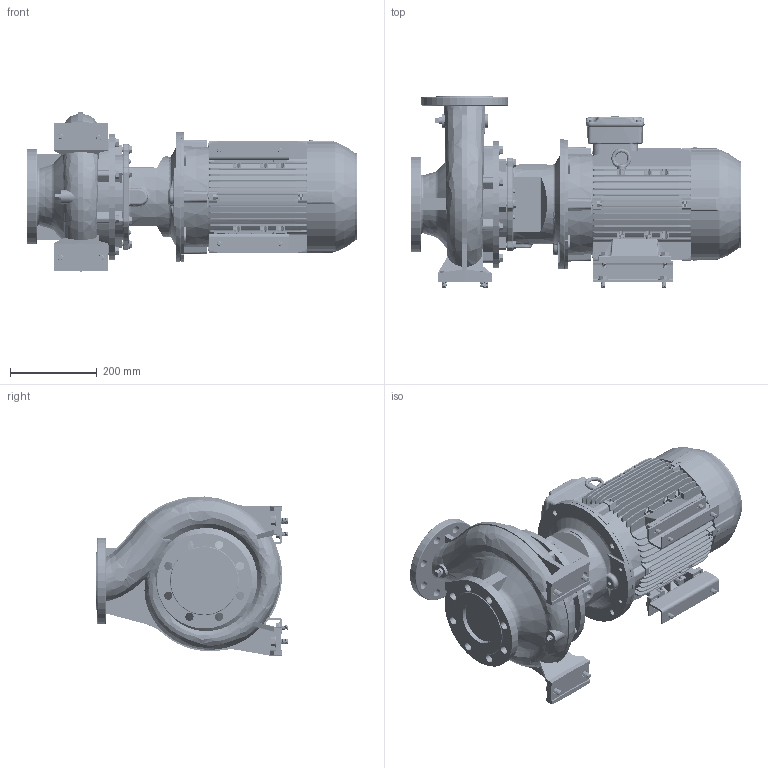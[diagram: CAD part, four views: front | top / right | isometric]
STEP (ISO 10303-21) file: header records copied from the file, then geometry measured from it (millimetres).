
FILE_DESCRIPTION (( 'STEP AP214' ), '1' );
FILE_NAME ('GSD4 80-200_5.5_(132S)_W21.STEP', '2026-07-01T02:18:27', ( '' ), ( '' ), 'SwSTEP 2.0', 'SolidWorks 2024', '' );
FILE_SCHEMA (( 'AUTOMOTIVE_DESIGN' ));
Length unit declared in the file: millimetre
Products named in the file (12): Parametric bolt_SFT-A253B; Parametric Flat Washer_M10; GSD4 80-200_5.5_(132S)_W21; Parametric bolt_SFT-A299B; Parametric Flat Washer_M12; 132S ALIE3_W21T_B35; Parametric bolt and washer_SFT-A253B; 140 x 48 - 271472022; Parametric bolt and washer_SFT-A299B; Parametric bolt and washer_SFT-A249B; 80-200-132S_ﾃﾞﾌｫﾙﾄ; Parametric bolt_SFT-A249B
Assembly tree (22 placements, depth 3):
  GSD4 80-200_5.5_(132S)_W21
    80-200-132S_ﾃﾞﾌｫﾙﾄ
    140 x 48 - 271472022  x2
    Parametric bolt and washer_SFT-A299B  x4
      Parametric bolt_SFT-A299B
      Parametric Flat Washer_M12
    Parametric bolt and washer_SFT-A249B  x4
      Parametric bolt_SFT-A249B
      Parametric Flat Washer_M10
    Parametric bolt and washer_SFT-A253B  x4
      Parametric bolt_SFT-A253B
      Parametric Flat Washer_M10
    132S ALIE3_W21T_B35
Bounding box: 764.8 x 443 x 367.65 mm (x, y, z)
Volume: 34648589.6 mm3; surface area: 2150169.9 mm2
Topology: 32 solids, 32 shells, 4997 faces, 12911 edges, 8331 vertices
Faces by surface type: plane 2958, cylinder 1177, torus 297, cone 269, bspline 264, sphere 32
Entity records: 175210 total; most frequent: CARTESIAN_POINT 67806, ORIENTED_EDGE 23078, DIRECTION 20877, EDGE_CURVE 11539, VECTOR 7677, LINE 7677, VERTEX_POINT 7451, AXIS2_PLACEMENT_3D 6600
